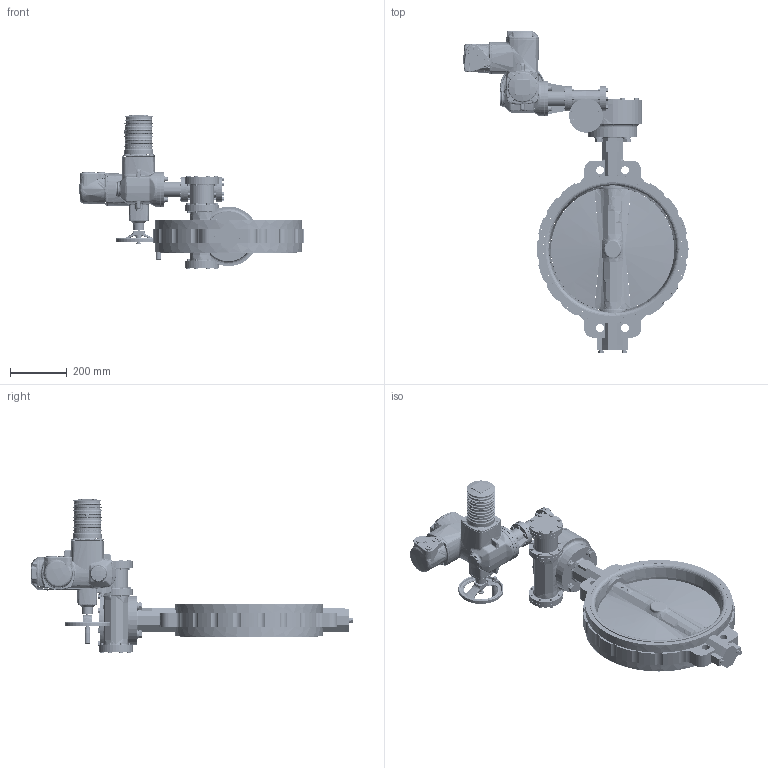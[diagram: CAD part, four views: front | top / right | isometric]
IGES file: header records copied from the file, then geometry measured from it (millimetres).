
Start section: SolidWorks IGES file using analytic representation for surfaces
Global section: file name: H:\BE BIBLIOTHEQUE 3D\BE SECTION 01 - ROBINETS A PAPILLON_VANNES PASSAGE DIRECTE\VP - Vanne Papillon\VPE\WORLDVALVE\WAFER\TECLARGE\VPE440X-UX4\PN10\DN450\VPE440X-U04EP0450.IGS; native system: SolidWorks 2017; preprocessor: SolidWorks 2017; author: k.gigout; date: 200804.120254; units: millimetre
Bounding box: 795.92 x 1135.8 x 546.46 mm (x, y, z)
Surface area: 2110937.2 mm2 (no closed solid volume)
Topology: 0 solids, 0 shells, 2035 faces, 31671 edges, 31638 vertices
Faces by surface type: bspline 1258, revolution 777
